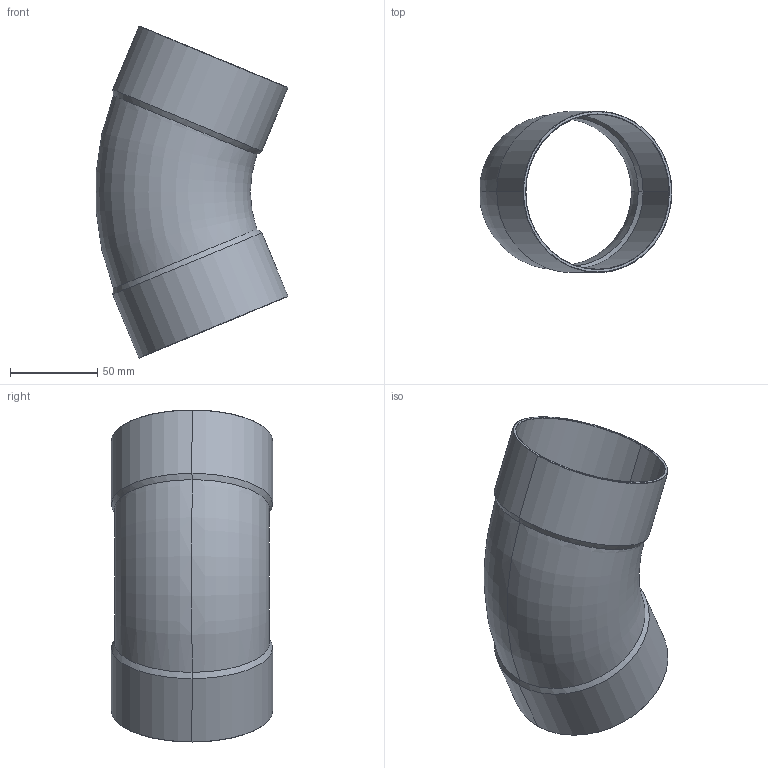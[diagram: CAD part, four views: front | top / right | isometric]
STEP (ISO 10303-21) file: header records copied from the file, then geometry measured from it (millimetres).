
FILE_DESCRIPTION((''),'2;1');
FILE_NAME('P:\Bouwmaten\z-maattekeningen 3D\5000\5040\1504189.stp','2005-10-12T15:50:20',('Kris'),(''),'Autodesk Inventor 8','Autodesk Inventor 8','');
FILE_SCHEMA(('AUTOMOTIVE_DESIGN { 1 0 10303 214 1 1 1 1 }'));
Length unit declared in the file: millimetre
Products named in the file (1): 1504189
Bounding box: 110.04 x 92.5 x 190.46 mm (x, y, z)
Volume: 82604.6 mm3; surface area: 92699.6 mm2
Topology: 1 solids, 1 shells, 30 faces, 60 edges, 32 vertices
Faces by surface type: cone 12, bspline 9, torus 4, cylinder 4, plane 1
Entity records: 1027 total; most frequent: CARTESIAN_POINT 414, DIRECTION 124, ORIENTED_EDGE 120, EDGE_CURVE 60, AXIS2_PLACEMENT_3D 50, VERTEX_POINT 32, EDGE_LOOP 32, FACE_OUTER_BOUND 30
